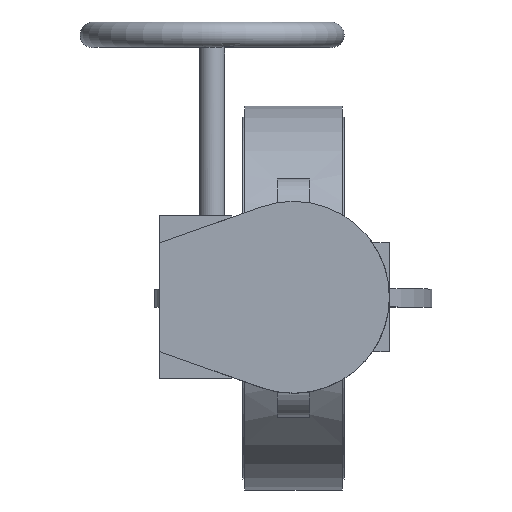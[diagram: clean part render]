
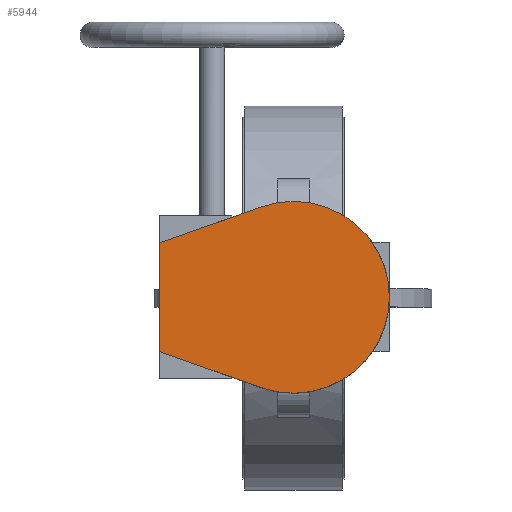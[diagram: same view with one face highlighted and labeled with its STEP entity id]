
A CAD part, top view. The second image highlights one B-rep face of the part: STEP entity #5944.
In plain terms, the highlighted planar face has unit normal (0, 0, 1).
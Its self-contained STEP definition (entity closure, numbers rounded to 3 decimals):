
#5944=ADVANCED_FACE('',(#11249),#11251,.T.);
#11249=FACE_BOUND('',#11250,.T.);
#11250=EDGE_LOOP('',(#15145,#15146,#15147,#15148));
#11251=PLANE('',#11252);
#11252=AXIS2_PLACEMENT_3D('',#11253,#11254,#11255);
#11253=CARTESIAN_POINT('',(0.,0.,265.));
#11254=DIRECTION('',(0.,0.,1.));
#11255=DIRECTION('',(0.,1.,0.));
#15145=ORIENTED_EDGE('',*,*,#17116,.T.);
#15146=ORIENTED_EDGE('',*,*,#17112,.T.);
#15147=ORIENTED_EDGE('',*,*,#17105,.T.);
#15148=ORIENTED_EDGE('',*,*,#17100,.T.);
#17100=EDGE_CURVE('',#20267,#20265,#20268,.T.);
#17105=EDGE_CURVE('',#20275,#20267,#20276,.T.);
#17112=EDGE_CURVE('',#20288,#20275,#20289,.T.);
#17116=EDGE_CURVE('',#20265,#20288,#20294,.T.);
#20265=VERTEX_POINT('',#29579);
#20267=VERTEX_POINT('',#29583);
#20268=LINE('',#29584,#29585);
#20275=VERTEX_POINT('',#29601);
#20276=LINE('',#29602,#29603);
#20288=VERTEX_POINT('',#29628);
#20289=LINE('',#29629,#29630);
#20294=CIRCLE('',#29642,53.);
#29579=CARTESIAN_POINT('',(-17.708,-49.954,265.));
#29583=CARTESIAN_POINT('',(-74.,-30.,265.));
#29584=CARTESIAN_POINT('',(-74.,-30.,265.));
#29585=VECTOR('',#29586,1.);
#29586=DIRECTION('',(0.943,-0.334,0.));
#29601=CARTESIAN_POINT('',(-74.,30.,265.));
#29602=CARTESIAN_POINT('',(-74.,30.,265.));
#29603=VECTOR('',#29604,1.);
#29604=DIRECTION('',(0.,-1.,0.));
#29628=CARTESIAN_POINT('',(-17.708,49.954,265.));
#29629=CARTESIAN_POINT('',(-17.708,49.954,265.));
#29630=VECTOR('',#29631,1.);
#29631=DIRECTION('',(-0.943,-0.334,0.));
#29642=AXIS2_PLACEMENT_3D('',#29643,#29644,#29645);
#29643=CARTESIAN_POINT('',(0.,0.,265.));
#29644=DIRECTION('',(0.,0.,1.));
#29645=DIRECTION('',(-0.334,-0.943,0.));
